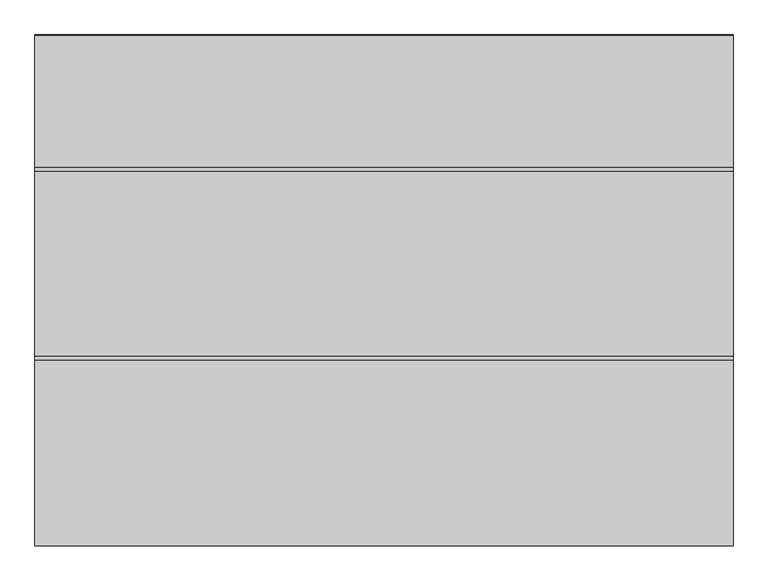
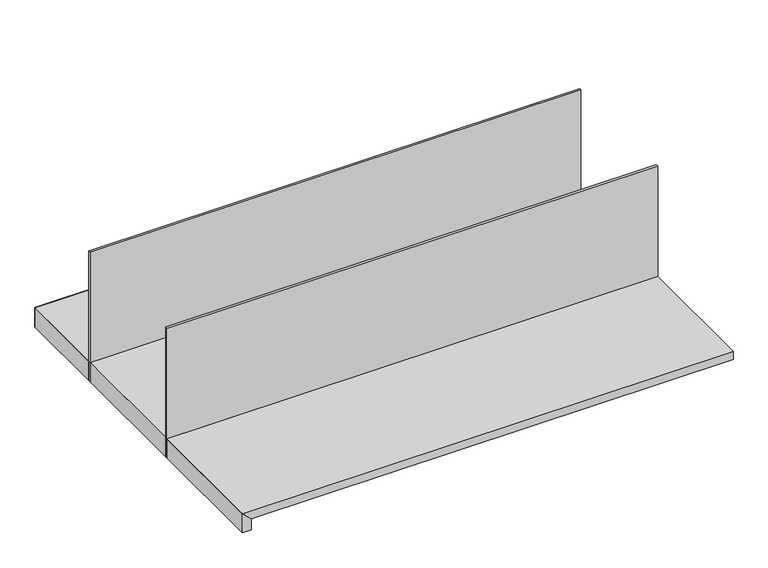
"""IFC4 building model written with IfcOpenShell, lengths in millimetres: proxy geometry, CCN^APOGEE_L3 WALL HUNG-42 METAL SHELVES PARTS SOLID."""

from ifc_helpers import new_model, si_unit, frame, origin, place, context, project, spatial, polyline, outline, extrude, faceted_brep, source, transform, mapped, element, save


def generic_models_fc933c07(model_context):
    return source(origin(), model_context, "Body", "SolidModel", [
        faceted_brep([(0.0, 781.05, -25.4), (19.05, 762.0, -25.4), (19.05, 762.0, 0.0), (0.0, 781.05, 19.05), (1066.8, 762.0, -25.4), (1066.8, 762.0, 0.0), (1066.8, 781.05, -25.4), (1066.8, 781.05, 19.05)], [[[0, 1, 2, 3]], [[2, 1, 4, 5]], [[1, 0, 6, 4]], [[0, 3, 7, 6]], [[3, 2, 5, 7]], [[7, 5, 4, 6]]]),
        extrude(outline(polyline([(1066.8, 284.1625), (0.0, 284.1625), (0.0, 288.925), (1066.8, 288.925), (1066.8, 284.1625)])), frame((0.0, 0.0, -25.4), z_axis=(0.0, 0.0, 1.0), x_axis=(1.0, 0.0, 0.0)), (0.0, 0.0, 1.0), 298.45),
        extrude(outline(polyline([(1066.8, 573.0875), (0.0, 573.0875), (0.0, 577.85), (1066.8, 577.85), (1066.8, 573.0875)])), frame((0.0, 0.0, -25.4), z_axis=(0.0, 0.0, 1.0), x_axis=(1.0, 0.0, 0.0)), (0.0, 0.0, 1.0), 298.45),
        extrude(outline(polyline([(0.0, 19.05), (0.0, 1066.8), (19.05, 1066.8), (19.05, 0.0), (0.0, 19.05)])), frame((0.0, 288.925, 0.0), z_axis=(0.0, 1.0, 0.0), x_axis=(0.0, 0.0, 1.0)), (0.0, 0.0, 1.0), 284.1625),
        faceted_brep([(0.0, 577.85, 19.05), (1066.8, 577.85, 19.05), (1066.8, 781.05, 19.05), (0.0, 781.05, 19.05), (1066.8, 577.85, 0.0), (1066.8, 762.0, 0.0), (19.05, 577.85, 0.0), (19.05, 762.0, 0.0)], [[[0, 1, 2, 3]], [[1, 4, 5, 2]], [[4, 6, 7, 5]], [[6, 0, 3, 7]], [[6, 4, 1, 0]], [[7, 3, 2, 5]]]),
        extrude(outline(polyline([(19.05, 0.0), (0.0, 19.05), (0.0, 1066.8), (19.05, 1066.8), (19.05, 0.0)])), frame((0.0, 0.0, 0.0), z_axis=(0.0, 1.0, 0.0), x_axis=(0.0, 0.0, 1.0)), (0.0, 0.0, 1.0), 284.1625),
        extrude(outline(polyline([(0.0, 19.05), (19.05, 0.0), (-25.4, 0.0), (-25.4, 19.05), (0.0, 19.05)])), frame((0.0, 288.925, 0.0), z_axis=(0.0, 1.0, 0.0), x_axis=(0.0, 0.0, 1.0)), (0.0, 0.0, 1.0), 284.1625),
        extrude(outline(polyline([(-25.4, 19.05), (0.0, 19.05), (19.05, 0.0), (-25.4, 0.0), (-25.4, 19.05)])), frame((0.0, 0.0, 0.0), z_axis=(0.0, 1.0, 0.0), x_axis=(0.0, 0.0, 1.0)), (0.0, 0.0, 1.0), 284.1625),
        faceted_brep([(19.05, 577.85, -25.4), (0.0, 577.85, -25.4), (0.0, 781.05, -25.4), (19.05, 762.0, -25.4), (19.05, 577.85, 0.0), (19.05, 762.0, 0.0), (0.0, 577.85, 19.05), (0.0, 781.05, 19.05)], [[[0, 1, 2, 3]], [[4, 0, 3, 5]], [[6, 4, 5, 7]], [[1, 6, 7, 2]], [[7, 5, 3, 2]], [[4, 6, 1, 0]]]),
    ])


if __name__ == "__main__":
    model = new_model("IFC4")
    model_context = context("Model", 3, world=origin())
    ifc_project = project(units=[si_unit("LENGTHUNIT", "METRE", prefix="MILLI")], contexts=[model_context])
    site = spatial("IfcSite", under=ifc_project)
    building = spatial("IfcBuilding", under=site)
    placement = place(None, origin())
    generic_models_shape = generic_models_fc933c07(model_context)
    element("IfcBuildingElementProxy", 1, Name="CCN^APOGEE_L3 WALL HUNG-42 METAL SHELVES PARTS SOLID", ObjectType="CCN^APOGEE_L3 WALL HUNG-42 METAL SHELVES PARTS SOLID", at=placement, inside=building, context=model_context, shape_type="MappedRepresentation", body=[
        mapped(generic_models_shape, transform((0.0, 0.0, 0.0), x_axis=(1.0, 0.0, 0.0), y_axis=(0.0, 1.0, 0.0), z_axis=(0.0, 0.0, 1.0))),
    ])
    save(model, "model.ifc")
